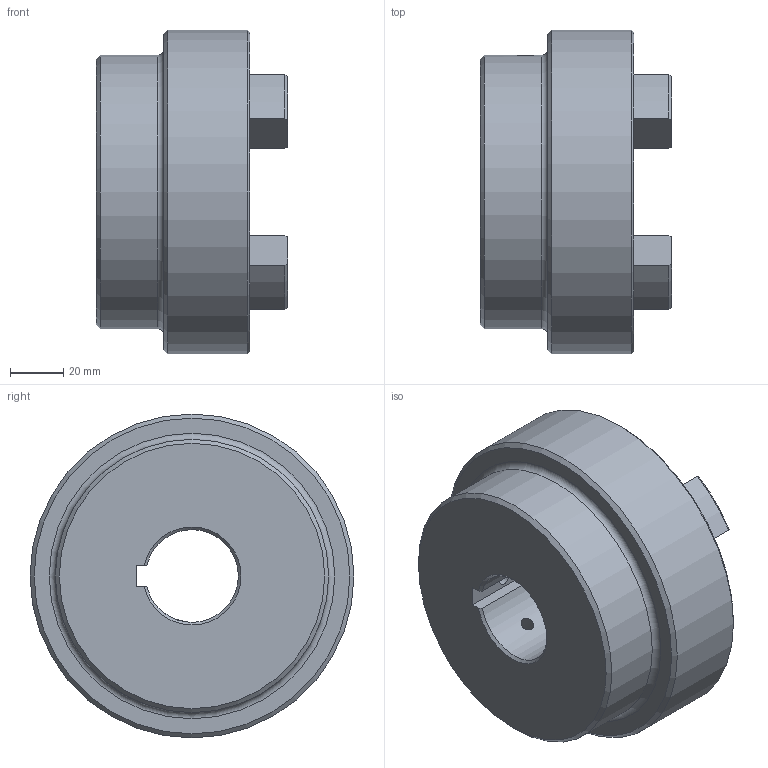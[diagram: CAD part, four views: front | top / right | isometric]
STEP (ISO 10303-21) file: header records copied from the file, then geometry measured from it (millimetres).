
FILE_DESCRIPTION (( 'STEP AP203' ), '1' );
FILE_NAME ('RC5.step', '2024-07-25T13:24:12', ( 'Adlan' ), ( '' ), 'SwSTEP 2.0', 'SolidWorks 2013', '' );
FILE_SCHEMA (( 'CONFIG_CONTROL_DESIGN' ));
Length unit declared in the file: inch
Products named in the file (1): RC5
Bounding box: 72.14 x 122.17 x 122.17 mm (x, y, z)
Volume: 437499.8 mm3; surface area: 59535.3 mm2
Topology: 1 solids, 1 shells, 83 faces, 210 edges, 131 vertices
Faces by surface type: cylinder 33, plane 19, torus 17, cone 14
Full cylindrical faces by diameter (mm): 5.105 x2, 103.124 x1, 122.174 x1
Entity records: 2761 total; most frequent: CARTESIAN_POINT 680, DIRECTION 446, ORIENTED_EDGE 394, EDGE_CURVE 197, AXIS2_PLACEMENT_3D 178, VERTEX_POINT 128, EDGE_LOOP 101, CIRCLE 94
